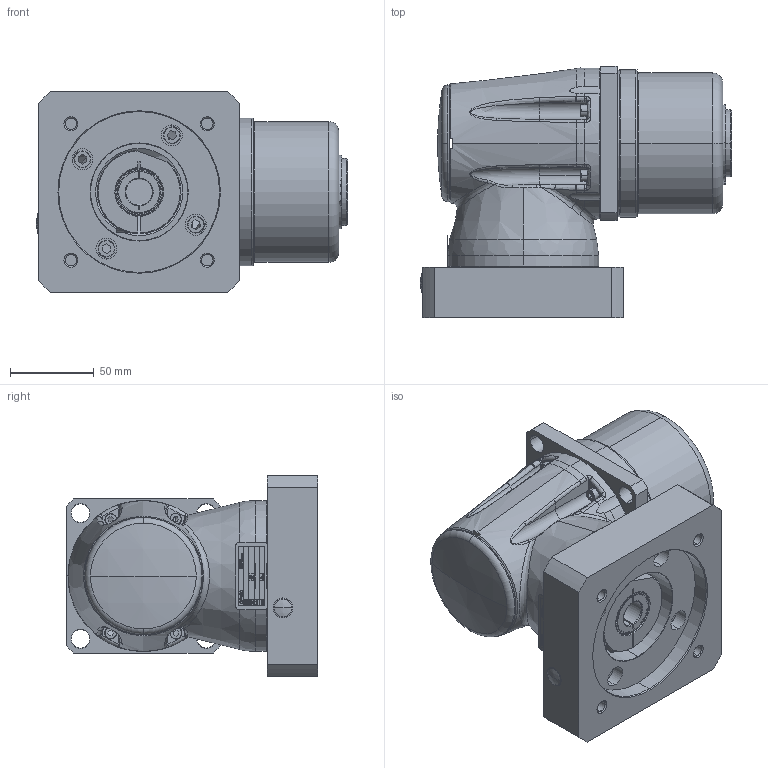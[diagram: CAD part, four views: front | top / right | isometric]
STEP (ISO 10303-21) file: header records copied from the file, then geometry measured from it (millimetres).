
FILE_DESCRIPTION (( 'STEP AP214' ), '1' );
FILE_NAME ('FL-020-0RR-FFF-MMM-S-LL-XXX-BXX-DDCC.STEP', '2019-10-30T15:43:18', ( '' ), ( '' ), 'SwSTEP 2.0', 'SolidWorks 2019', '' );
FILE_SCHEMA (( 'AUTOMOTIVE_DESIGN' ));
Length unit declared in the file: millimetre
Products named in the file (1): FL-020-0RR-FFF-MMM-S-LL-XXX-BXX-DDCC
Bounding box: 185.57 x 150 x 120 mm (x, y, z)
Surface area: 134606.7 mm2 (no closed solid volume)
Topology: 0 solids, 68 shells, 513 faces, 2400 edges, 1952 vertices
Faces by surface type: plane 153, cylinder 134, cone 91, bspline 68, torus 63, sphere 4
Entity records: 39492 total; most frequent: CARTESIAN_POINT 16235, ORIENTED_EDGE 3350, DIRECTION 3084, EDGE_CURVE 2398, VERTEX_POINT 1952, LINE 1044, VECTOR 1044, AXIS2_PLACEMENT_3D 1020
